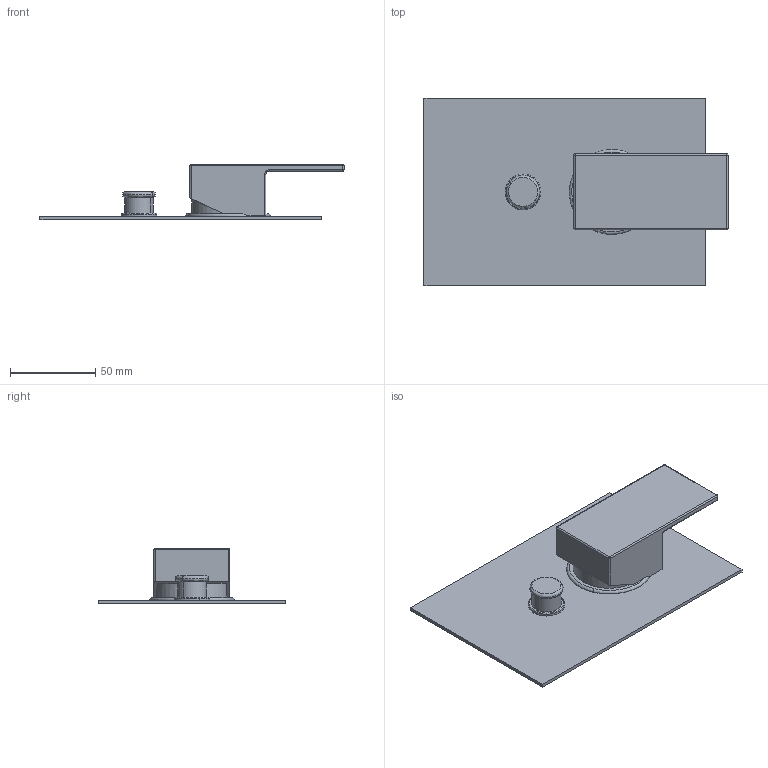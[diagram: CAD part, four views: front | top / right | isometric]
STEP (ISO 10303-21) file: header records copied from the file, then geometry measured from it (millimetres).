
FILE_DESCRIPTION (( 'STEP AP214' ), '1' );
FILE_NAME ('58102110 x architetti.STEP', '2025-01-24T16:23:52', ( '' ), ( '' ), 'SwSTEP 2.0', 'SolidWorks 2020', '' );
FILE_SCHEMA (( 'AUTOMOTIVE_DESIGN' ));
Length unit declared in the file: millimetre
Products named in the file (1): 58102110 x architetti
Bounding box: 178.06 x 110 x 32.48 mm (x, y, z)
Volume: 99295.5 mm3; surface area: 56669.8 mm2
Topology: 1 solids, 4 shells, 137 faces, 345 edges, 216 vertices
Faces by surface type: cylinder 59, plane 55, bspline 10, sphere 9, torus 2, cone 2
Entity records: 6078 total; most frequent: CARTESIAN_POINT 1588, ORIENTED_EDGE 670, DIRECTION 615, EDGE_CURVE 335, AXIS2_PLACEMENT_3D 237, VERTEX_POINT 214, EDGE_LOOP 149, LINE 141
